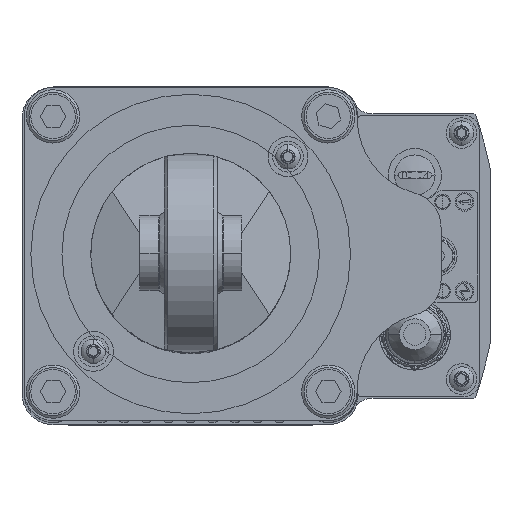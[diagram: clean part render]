
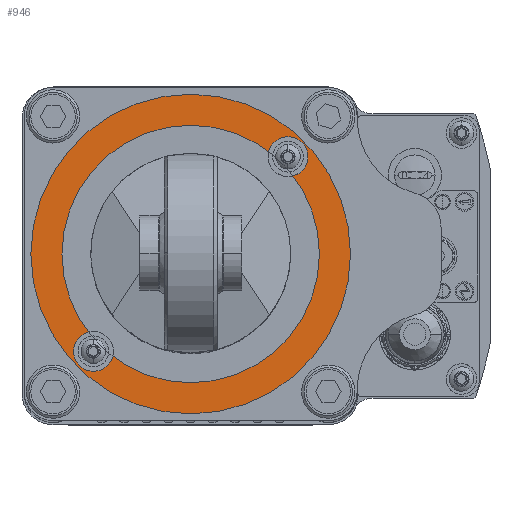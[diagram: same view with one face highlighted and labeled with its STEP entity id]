
A CAD part, top view. The second image highlights one B-rep face of the part: STEP entity #946.
In plain terms, the highlighted planar face has unit normal (0, 0, 1).
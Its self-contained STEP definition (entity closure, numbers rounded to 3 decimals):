
#946 = ADVANCED_FACE ( 'NONE', ( #171156, #89286, #35845, #75951 ), #87532, .T. ) ;
#1850 = VERTEX_POINT ( 'NONE', #6006 ) ;
#3319 = CARTESIAN_POINT ( 'NONE',  ( -21.92, -21.92, 257.9 ) ) ;
#5310 = ORIENTED_EDGE ( 'NONE', *, *, #53284, .T. ) ;
#6006 = CARTESIAN_POINT ( 'NONE',  ( -36., 0., 257.9 ) ) ;
#8318 = DIRECTION ( 'NONE',  ( 1., 0., 0. ) ) ;
#10728 = EDGE_CURVE ( 'NONE', #49999, #43418, #99425, .T. ) ;
#17446 = CARTESIAN_POINT ( 'NONE',  ( 0., 0., 257.9 ) ) ;
#25614 = AXIS2_PLACEMENT_3D ( 'NONE', #33526, #114558, #101195 ) ;
#27361 = ORIENTED_EDGE ( 'NONE', *, *, #34056, .F. ) ;
#30589 = VERTEX_POINT ( 'NONE', #73933 ) ;
#31093 = ORIENTED_EDGE ( 'NONE', *, *, #145451, .F. ) ;
#31655 = DIRECTION ( 'NONE',  ( 0., 0., 1. ) ) ;
#31958 = CIRCLE ( 'NONE', #174171, 1.25 ) ;
#33526 = CARTESIAN_POINT ( 'NONE',  ( 21.92, 21.92, 257.9 ) ) ;
#34056 = EDGE_CURVE ( 'NONE', #30589, #80001, #121714, .T. ) ;
#35845 = FACE_OUTER_BOUND ( 'NONE', #140882, .T. ) ;
#38281 = DIRECTION ( 'NONE',  ( 1., 0., 0. ) ) ;
#43019 = VERTEX_POINT ( 'NONE', #45488 ) ;
#43418 = VERTEX_POINT ( 'NONE', #158962 ) ;
#44200 = DIRECTION ( 'NONE',  ( 1., 0., 0. ) ) ;
#44880 = CARTESIAN_POINT ( 'NONE',  ( 23.17, 21.92, 257.9 ) ) ;
#45488 = CARTESIAN_POINT ( 'NONE',  ( 36., 0., 257.9 ) ) ;
#46228 = ORIENTED_EDGE ( 'NONE', *, *, #51386, .T. ) ;
#47942 = AXIS2_PLACEMENT_3D ( 'NONE', #3319, #111830, #55829 ) ;
#49279 = DIRECTION ( 'NONE',  ( 1., 0., 0. ) ) ;
#49599 = AXIS2_PLACEMENT_3D ( 'NONE', #17446, #31655, #44200 ) ;
#49999 = VERTEX_POINT ( 'NONE', #44880 ) ;
#51386 = EDGE_CURVE ( 'NONE', #1850, #43019, #88874, .T. ) ;
#51607 = AXIS2_PLACEMENT_3D ( 'NONE', #114291, #74285, #49279 ) ;
#51997 = EDGE_CURVE ( 'NONE', #80001, #30589, #128440, .T. ) ;
#53284 = EDGE_CURVE ( 'NONE', #43019, #1850, #134924, .T. ) ;
#54157 = EDGE_CURVE ( 'NONE', #57007, #118911, #167417, .T. ) ;
#54518 = DIRECTION ( 'NONE',  ( 0., 0., 1. ) ) ;
#54564 = ORIENTED_EDGE ( 'NONE', *, *, #175080, .F. ) ;
#55829 = DIRECTION ( 'NONE',  ( 1., 0., 0. ) ) ;
#57007 = VERTEX_POINT ( 'NONE', #164399 ) ;
#57288 = EDGE_LOOP ( 'NONE', ( #172369, #54564 ) ) ;
#57495 = EDGE_LOOP ( 'NONE', ( #116799, #27361 ) ) ;
#68818 = DIRECTION ( 'NONE',  ( 1., 0., 0. ) ) ;
#70978 = CARTESIAN_POINT ( 'NONE',  ( -29., 0., 257.9 ) ) ;
#73933 = CARTESIAN_POINT ( 'NONE',  ( 29., 0., 257.9 ) ) ;
#74285 = DIRECTION ( 'NONE',  ( 0., 0., 1. ) ) ;
#74435 = AXIS2_PLACEMENT_3D ( 'NONE', #102628, #131166, #8318 ) ;
#75951 = FACE_BOUND ( 'NONE', #57495, .T. ) ;
#80001 = VERTEX_POINT ( 'NONE', #70978 ) ;
#82212 = ORIENTED_EDGE ( 'NONE', *, *, #10728, .F. ) ;
#87532 = PLANE ( 'NONE',  #74435 ) ;
#88874 = CIRCLE ( 'NONE', #108828, 36. ) ;
#89286 = FACE_BOUND ( 'NONE', #57288, .T. ) ;
#92021 = CIRCLE ( 'NONE', #163237, 1.25 ) ;
#99425 = CIRCLE ( 'NONE', #25614, 1.25 ) ;
#101195 = DIRECTION ( 'NONE',  ( 1., 0., 0. ) ) ;
#101194 = DIRECTION ( 'NONE',  ( 0., 0., 1. ) ) ;
#102628 = CARTESIAN_POINT ( 'NONE',  ( 0., 0., 257.9 ) ) ;
#108828 = AXIS2_PLACEMENT_3D ( 'NONE', #133561, #160284, #38281 ) ;
#108894 = DIRECTION ( 'NONE',  ( 1., 0., 0. ) ) ;
#111830 = DIRECTION ( 'NONE',  ( 0., 0., 1. ) ) ;
#114291 = CARTESIAN_POINT ( 'NONE',  ( 0., 0., 257.9 ) ) ;
#114558 = DIRECTION ( 'NONE',  ( 0., 0., 1. ) ) ;
#116397 = AXIS2_PLACEMENT_3D ( 'NONE', #132051, #54518, #68818 ) ;
#116799 = ORIENTED_EDGE ( 'NONE', *, *, #51997, .F. ) ;
#118911 = VERTEX_POINT ( 'NONE', #132318 ) ;
#121714 = CIRCLE ( 'NONE', #116397, 29. ) ;
#122234 = DIRECTION ( 'NONE',  ( 0., 0., 1. ) ) ;
#127071 = DIRECTION ( 'NONE',  ( 1., 0., 0. ) ) ;
#128440 = CIRCLE ( 'NONE', #51607, 29. ) ;
#131166 = DIRECTION ( 'NONE',  ( 0., 0., 1. ) ) ;
#132051 = CARTESIAN_POINT ( 'NONE',  ( 0., 0., 257.9 ) ) ;
#132318 = CARTESIAN_POINT ( 'NONE',  ( -23.17, -21.92, 257.9 ) ) ;
#133561 = CARTESIAN_POINT ( 'NONE',  ( 0., 0., 257.9 ) ) ;
#134924 = CIRCLE ( 'NONE', #49599, 36. ) ;
#136544 = CARTESIAN_POINT ( 'NONE',  ( -21.92, -21.92, 257.9 ) ) ;
#140474 = CARTESIAN_POINT ( 'NONE',  ( 21.92, 21.92, 257.9 ) ) ;
#140882 = EDGE_LOOP ( 'NONE', ( #46228, #5310 ) ) ;
#145451 = EDGE_CURVE ( 'NONE', #43418, #49999, #92021, .T. ) ;
#158962 = CARTESIAN_POINT ( 'NONE',  ( 20.67, 21.92, 257.9 ) ) ;
#160284 = DIRECTION ( 'NONE',  ( 0., 0., 1. ) ) ;
#162878 = EDGE_LOOP ( 'NONE', ( #82212, #31093 ) ) ;
#163237 = AXIS2_PLACEMENT_3D ( 'NONE', #140474, #101194, #127071 ) ;
#164399 = CARTESIAN_POINT ( 'NONE',  ( -20.67, -21.92, 257.9 ) ) ;
#167417 = CIRCLE ( 'NONE', #47942, 1.25 ) ;
#171156 = FACE_BOUND ( 'NONE', #162878, .T. ) ;
#172369 = ORIENTED_EDGE ( 'NONE', *, *, #54157, .F. ) ;
#174171 = AXIS2_PLACEMENT_3D ( 'NONE', #136544, #122234, #108894 ) ;
#175080 = EDGE_CURVE ( 'NONE', #118911, #57007, #31958, .T. ) ;
